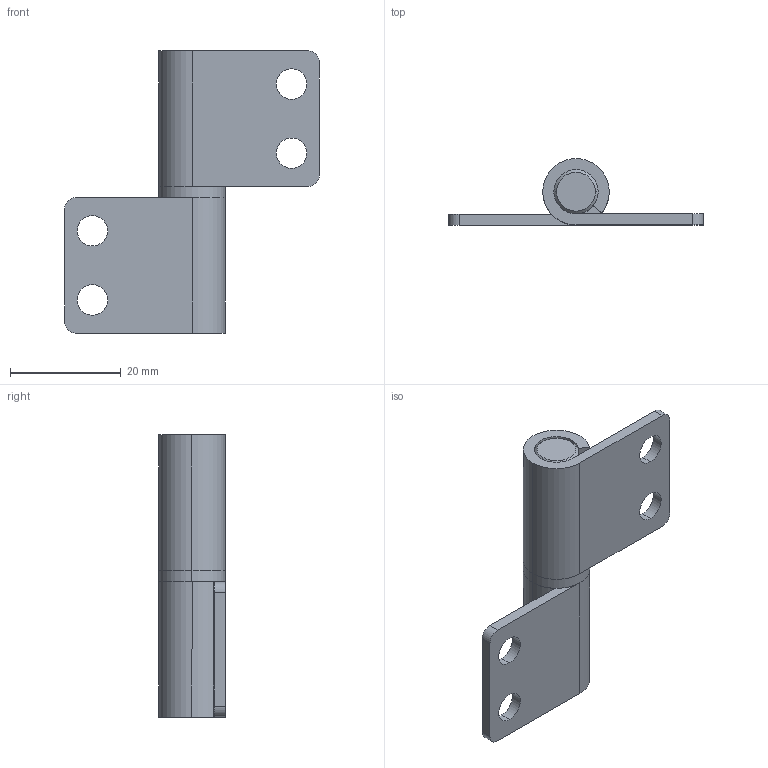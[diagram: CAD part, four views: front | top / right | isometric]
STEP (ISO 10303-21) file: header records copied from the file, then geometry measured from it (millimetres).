
FILE_DESCRIPTION (( 'STEP AP203' ), '1' );
FILE_NAME ('XG02-091-1.STEP', '2023-12-21T10:32:18', ( '' ), ( '' ), 'SwSTEP 2.0', 'SolidWorks 2020', '' );
FILE_SCHEMA (( 'CONFIG_CONTROL_DESIGN' ));
Length unit declared in the file: millimetre
Products named in the file (3): XG02-091-1; XG11-091-2-1; 091粣
Assembly tree (3 placements, depth 2):
  XG02-091-1
    XG11-091-2-1  x2
    091粣
Bounding box: 46 x 12 x 51 mm (x, y, z)
Volume: 7385.4 mm3; surface area: 6947.2 mm2
Topology: 3 solids, 3 shells, 50 faces, 122 edges, 80 vertices
Faces by surface type: cylinder 30, plane 16, cone 4
Entity records: 1271 total; most frequent: DIRECTION 190, CARTESIAN_POINT 160, ORIENTED_EDGE 148, AXIS2_PLACEMENT_3D 78, EDGE_CURVE 74, VERTEX_POINT 48, CIRCLE 40, EDGE_LOOP 38
